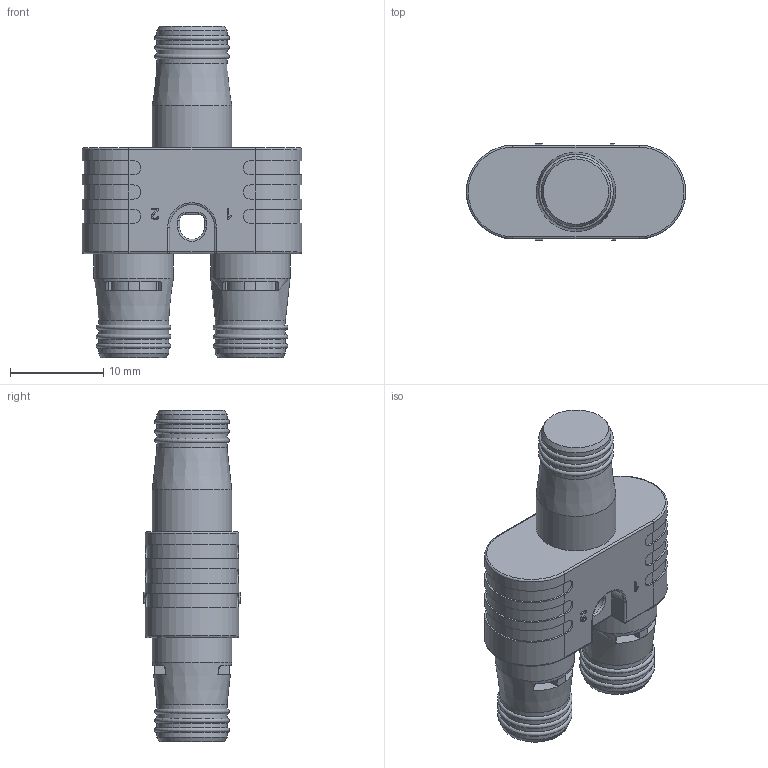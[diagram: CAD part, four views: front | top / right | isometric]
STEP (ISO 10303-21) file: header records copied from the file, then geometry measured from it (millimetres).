
FILE_DESCRIPTION((''),'2;1');
FILE_NAME('L:\CAD Inventor\Workspace\Overmolds\CM31 - CABLES.stp','2016-04-21T14:59:32',('RSwans'),(''),'Autodesk Inventor 2010','Autodesk Inventor 2010','');
FILE_SCHEMA(('AUTOMOTIVE_DESIGN { 1 0 10303 214 1 1 1 1 }'));
Length unit declared in the file: millimetre
Products named in the file (1): CM31 - CABLES
Bounding box: 23.5 x 10.4 x 35.5 mm (x, y, z)
Volume: 4011.1 mm3; surface area: 2191.5 mm2
Topology: 1 solids, 1 shells, 243 faces, 633 edges, 397 vertices
Faces by surface type: plane 78, cylinder 75, bspline 64, torus 18, cone 4, sphere 4
Full cylindrical faces by diameter (mm): 7.5 x8, 8.5 x2
Entity records: 7889 total; most frequent: CARTESIAN_POINT 2269, ORIENTED_EDGE 1186, DIRECTION 1080, EDGE_CURVE 593, VERTEX_POINT 393, AXIS2_PLACEMENT_3D 367, VECTOR 346, LINE 346
